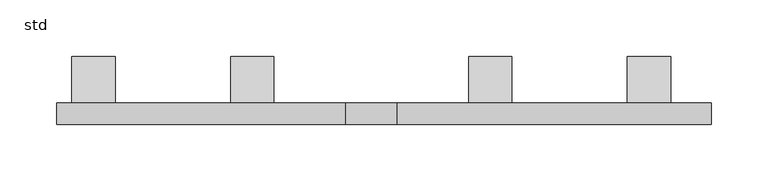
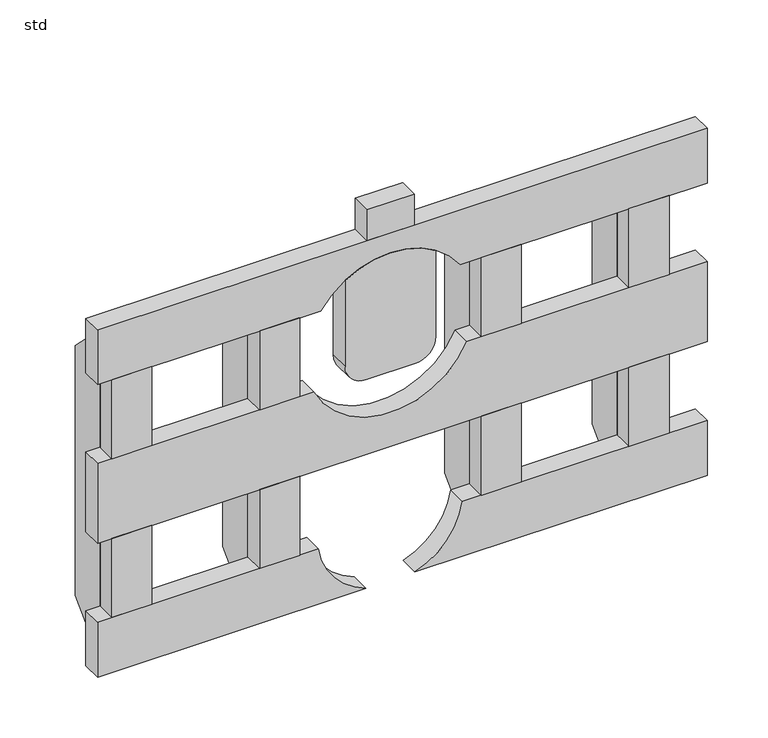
"""IFC4 building model written with IfcOpenShell, lengths in millimetres: unitary equipment geometry, Z_ME_UN_Aquacell_NG_Lateral_Side_Plate_Wavin_(nested) : std."""

from ifc_helpers import new_model, si_unit, point, frame, frame_2d, origin, place, context, project, spatial, polyline, circle_curve, trimmed, segment, composite_curve, outline, extrude, source, transform, mapped, element, save
from ifc_brep_helpers import plane_surface, revolved_surface, advanced_brep


def std_b7651e4d(model_context):
    return source(origin(), model_context, "Body", "SolidModel", [
        extrude(outline(composite_curve([segment(trimmed(circle_curve(frame_2d((264.0, 277.0)), 20.0), [point((264.0, 257.0))], [point((244.0, 277.0))], False, "CARTESIAN"), True, "CONTINUOUS"), segment(polyline([(244.0, 277.0), (244.0, 323.0)]), True, "CONTINUOUS"), segment(trimmed(circle_curve(frame_2d((264.0, 323.0)), 20.0), [point((244.0, 323.0))], [point((264.0, 343.0))], False, "CARTESIAN"), True, "CONTINUOUS"), segment(polyline([(264.0, 343.0), (350.4610999, 343.0)]), True, "CONTINUOUS"), segment(trimmed(circle_curve(frame_2d((283.0, 300.0)), 80.0), [point((350.4610999, 343.0))], [point((350.4610999, 257.0))], False, "CARTESIAN"), True, "CONTINUOUS"), segment(polyline([(350.4610999, 257.0), (264.0, 257.0)]), True, "CONTINUOUS")], self_intersect=False)), frame((0.0, 0.0, 0.0), z_axis=(0.0, 1.0, 0.0), x_axis=(0.0, 0.0, 1.0)), (0.0, 0.0, 1.0), 19.0),
        extrude(outline(polyline([(214.0, 0.0), (176.0, 0.0), (176.0, 19.0), (214.0, 19.0), (214.0, 0.0)])), frame((0.0, 0.0, 90.0), z_axis=(0.0, 0.0, 1.0), x_axis=(1.0, 0.0, 0.0)), (0.0, 0.0, 1.0), 79.0),
        extrude(outline(polyline([(214.0, 0.0), (176.0, 0.0), (176.0, 19.0), (214.0, 19.0), (214.0, 0.0)])), frame((0.0, 0.0, 249.0), z_axis=(0.0, 0.0, 1.0), x_axis=(1.0, 0.0, 0.0)), (0.0, 0.0, 1.0), 79.0),
        extrude(outline(polyline([(424.0, 0.0), (386.0, 0.0), (386.0, 19.0), (424.0, 19.0), (424.0, 0.0)])), frame((0.0, 0.0, 90.0), z_axis=(0.0, 0.0, 1.0), x_axis=(1.0, 0.0, 0.0)), (0.0, 0.0, 1.0), 79.0),
        extrude(outline(polyline([(424.0, 0.0), (386.0, 0.0), (386.0, 19.0), (424.0, 19.0), (424.0, 0.0)])), frame((0.0, 0.0, 249.0), z_axis=(0.0, 0.0, 1.0), x_axis=(1.0, 0.0, 0.0)), (0.0, 0.0, 1.0), 79.0),
        extrude(outline(polyline([(19.0, 35.0), (19.0, 367.0), (60.0, 326.0), (60.0, 76.0), (19.0, 35.0)])), frame((526.0, 0.0, 0.0), z_axis=(1.0, 0.0, 0.0), x_axis=(0.0, 1.0, 0.0)), (0.0, 0.0, 1.0), 38.0),
        extrude(outline(polyline([(19.0, 35.0), (19.0, 367.0), (60.0, 326.0), (60.0, 76.0), (19.0, 35.0)])), frame((386.0, 0.0, 0.0), z_axis=(1.0, 0.0, 0.0), x_axis=(0.0, 1.0, 0.0)), (0.0, 0.0, 1.0), 38.0),
        extrude(outline(polyline([(19.0, 35.0), (19.0, 367.0), (60.0, 326.0), (60.0, 76.0), (19.0, 35.0)])), frame((176.0, 0.0, 0.0), z_axis=(1.0, 0.0, 0.0), x_axis=(0.0, 1.0, 0.0)), (0.0, 0.0, 1.0), 38.0),
        extrude(outline(polyline([(19.0, 35.0), (19.0, 367.0), (60.0, 326.0), (60.0, 76.0), (19.0, 35.0)])), frame((36.0, 0.0, 0.0), z_axis=(1.0, 0.0, 0.0), x_axis=(0.0, 1.0, 0.0)), (0.0, 0.0, 1.0), 38.0),
        extrude(outline(polyline([(564.0, 0.0), (526.0, 0.0), (526.0, 19.0), (564.0, 19.0), (564.0, 0.0)])), frame((0.0, 0.0, 90.0), z_axis=(0.0, 0.0, 1.0), x_axis=(1.0, 0.0, 0.0)), (0.0, 0.0, 1.0), 79.0),
        extrude(outline(polyline([(564.0, 0.0), (526.0, 0.0), (526.0, 19.0), (564.0, 19.0), (564.0, 0.0)])), frame((0.0, 0.0, 249.0), z_axis=(0.0, 0.0, 1.0), x_axis=(1.0, 0.0, 0.0)), (0.0, 0.0, 1.0), 79.0),
        extrude(outline(polyline([(74.0, 0.0), (36.0, 0.0), (36.0, 19.0), (74.0, 19.0), (74.0, 0.0)])), frame((0.0, 0.0, 90.0), z_axis=(0.0, 0.0, 1.0), x_axis=(1.0, 0.0, 0.0)), (0.0, 0.0, 1.0), 79.0),
        extrude(outline(polyline([(74.0, 0.0), (36.0, 0.0), (36.0, 19.0), (74.0, 19.0), (74.0, 0.0)])), frame((0.0, 0.0, 249.0), z_axis=(0.0, 0.0, 1.0), x_axis=(1.0, 0.0, 0.0)), (0.0, 0.0, 1.0), 79.0),
        extrude(outline(polyline([(322.5, 19.0), (322.5, 0.0), (277.5, 0.0), (277.5, 19.0), (322.5, 19.0)])), frame((0.0, 0.0, 383.0), z_axis=(0.0, 0.0, 1.0), x_axis=(1.0, 0.0, 0.0)), (0.0, 0.0, 1.0), 31.0),
        advanced_brep(
        [(600.0, 19.0, 383.0), (600.0, 19.0, 328.0), (366.1437828, 19.0, 328.0), (233.8562172, 19.0, 328.0), (22.5, 19.0, 328.0), (22.5, 19.0, 383.0), (600.0, 0.0, 383.0), (22.5, 0.0, 383.0), (22.5, 0.0, 328.0), (233.8562172, 0.0, 328.0), (366.1437828, 0.0, 328.0), (600.0, 0.0, 328.0)],
        [
            (0, 1),
            (1, 2),
            (2, 3, circle_curve(frame((300.0, 19.0, 283.0), z_axis=(0.0, -1.0, 0.0), x_axis=(1.0, 0.0, 0.0)), 80.0)),
            (3, 4),
            (4, 5),
            (5, 0),
            (6, 7),
            (7, 8),
            (8, 9),
            (9, 10, circle_curve(frame((300.0, 0.0, 283.0), z_axis=(0.0, 1.0, 0.0), x_axis=(1.0, 0.0, 0.0)), 80.0)),
            (10, 11),
            (11, 6),
            (5, 7),
            (6, 0),
            (8, 4),
            (3, 9),
            (1, 11),
            (10, 2),
        ],
        [
            plane_surface(frame((22.5, 19.0, 90.0), z_axis=(0.0, 1.0, 0.0), x_axis=(1.0, 0.0, 0.0))),
            plane_surface(frame((22.5, 0.0, 90.0), z_axis=(0.0, -1.0, 0.0), x_axis=(-1.0, 0.0, 0.0))),
            plane_surface(frame((600.0, 0.0, 383.0), z_axis=(0.0, 0.0, 1.0), x_axis=(0.0, 1.0, 0.0))),
            plane_surface(frame((22.5, 0.0, 328.0), z_axis=(0.0, 0.0, -1.0), x_axis=(0.0, 1.0, 0.0))),
            plane_surface(frame((22.5, 0.0, 383.0), z_axis=(-1.0, 0.0, 0.0), x_axis=(0.0, 1.0, 0.0))),
            plane_surface(frame((600.0, 0.0, 328.0), z_axis=(1.0, 0.0, 0.0), x_axis=(0.0, 1.0, 0.0))),
            revolved_surface(polyline([(380.0, 0.0, 283.0), (380.0, 19.0, 283.0)]), (300.0, 19.0, 283.0), (0.0, -1.0, 0.0)),
        ],
        [
            (0, [[1, 2, 3, 4, 5, 6]]),
            (1, [[7, 8, 9, 10, 11, 12]]),
            (2, [[-6, 13, -7, 14]]),
            (3, [[15, -4, 16, -9]]),
            (3, [[17, -11, 18, -2]]),
            (4, [[-5, -15, -8, -13]]),
            (5, [[-1, -14, -12, -17]]),
            (6, [[-3, -18, -10, -16]]),
        ],
    ),
        advanced_brep(
        [(600.0, 19.0, 90.0), (600.0, 19.0, 35.0), (323.1516738, 19.0, 35.0), (368.2715168, 19.0, 90.0), (600.0, 0.0, 35.0), (600.0, 0.0, 90.0), (368.2715168, 0.0, 90.0), (323.1516738, 0.0, 35.0)],
        [
            (0, 1),
            (1, 2),
            (2, 3, circle_curve(frame((300.0, 19.0, 100.0), z_axis=(0.0, -1.0, 0.0), x_axis=(1.0, 0.0, 0.0)), 69.0)),
            (3, 0),
            (4, 5),
            (5, 6),
            (6, 7, circle_curve(frame((300.0, 0.0, 100.0), z_axis=(0.0, 1.0, 0.0), x_axis=(1.0, 0.0, 0.0)), 69.0)),
            (7, 4),
            (5, 0),
            (3, 6),
            (1, 4),
            (7, 2),
        ],
        [
            plane_surface(frame((22.5, 19.0, 90.0), z_axis=(0.0, 1.0, 0.0), x_axis=(1.0, 0.0, 0.0))),
            plane_surface(frame((22.5, 0.0, 90.0), z_axis=(0.0, -1.0, 0.0), x_axis=(-1.0, 0.0, 0.0))),
            plane_surface(frame((600.0, 0.0, 90.0), z_axis=(0.0, 0.0, 1.0), x_axis=(0.0, 1.0, 0.0))),
            plane_surface(frame((22.5, 0.0, 35.0), z_axis=(0.0, 0.0, -1.0), x_axis=(0.0, 1.0, 0.0))),
            plane_surface(frame((600.0, 0.0, 35.0), z_axis=(1.0, 0.0, 0.0), x_axis=(0.0, 1.0, 0.0))),
            revolved_surface(polyline([(369.0, 0.0, 100.0), (369.0, 19.0, 100.0)]), (300.0, 19.0, 100.0), (0.0, -1.0, 0.0)),
        ],
        [
            (0, [[1, 2, 3, 4]]),
            (1, [[5, 6, 7, 8]]),
            (2, [[9, -4, 10, -6]]),
            (3, [[11, -8, 12, -2]]),
            (4, [[-1, -9, -5, -11]]),
            (5, [[-3, -12, -7, -10]]),
        ],
    ),
        advanced_brep(
        [(22.5, 19.0, 35.0), (22.5, 19.0, 90.0), (231.7284832, 19.0, 90.0), (276.8483262, 19.0, 35.0), (22.5, 0.0, 90.0), (22.5, 0.0, 35.0), (276.8483262, 0.0, 35.0), (231.7284832, 0.0, 90.0)],
        [
            (0, 1),
            (1, 2),
            (2, 3, circle_curve(frame((300.0, 19.0, 100.0), z_axis=(0.0, -1.0, 0.0), x_axis=(1.0, 0.0, 0.0)), 69.0)),
            (3, 0),
            (4, 5),
            (5, 6),
            (6, 7, circle_curve(frame((300.0, 0.0, 100.0), z_axis=(0.0, 1.0, 0.0), x_axis=(1.0, 0.0, 0.0)), 69.0)),
            (7, 4),
            (1, 4),
            (7, 2),
            (5, 0),
            (3, 6),
        ],
        [
            plane_surface(frame((22.5, 19.0, 90.0), z_axis=(0.0, 1.0, 0.0), x_axis=(1.0, 0.0, 0.0))),
            plane_surface(frame((22.5, 0.0, 90.0), z_axis=(0.0, -1.0, 0.0), x_axis=(-1.0, 0.0, 0.0))),
            plane_surface(frame((600.0, 0.0, 90.0), z_axis=(0.0, 0.0, 1.0), x_axis=(0.0, 1.0, 0.0))),
            plane_surface(frame((22.5, 0.0, 35.0), z_axis=(0.0, 0.0, -1.0), x_axis=(0.0, 1.0, 0.0))),
            plane_surface(frame((22.5, 0.0, 90.0), z_axis=(-1.0, 0.0, 0.0), x_axis=(0.0, 1.0, 0.0))),
            revolved_surface(polyline([(369.0, 0.0, 100.0), (369.0, 19.0, 100.0)]), (300.0, 19.0, 100.0), (0.0, -1.0, 0.0)),
        ],
        [
            (0, [[1, 2, 3, 4]]),
            (1, [[5, 6, 7, 8]]),
            (2, [[9, -8, 10, -2]]),
            (3, [[11, -4, 12, -6]]),
            (4, [[-1, -11, -5, -9]]),
            (5, [[-3, -10, -7, -12]]),
        ],
    ),
        advanced_brep(
        [(600.0, 19.0, 249.0), (600.0, 19.0, 169.0), (300.0, 19.0, 169.0), (22.5, 19.0, 169.0), (22.5, 19.0, 249.0), (227.584532, 19.0, 249.0), (372.415468, 19.0, 249.0), (22.5, 0.0, 249.0), (22.5, 0.0, 169.0), (300.0, 0.0, 169.0), (600.0, 0.0, 169.0), (600.0, 0.0, 249.0), (372.415468, 0.0, 249.0), (227.584532, 0.0, 249.0)],
        [
            (0, 1),
            (1, 2),
            (2, 3),
            (3, 4),
            (4, 5),
            (5, 6, circle_curve(frame((300.0, 19.0, 283.0), z_axis=(0.0, -1.0, 0.0), x_axis=(1.0, 0.0, 0.0)), 80.0)),
            (6, 0),
            (7, 8),
            (8, 9),
            (9, 10),
            (10, 11),
            (11, 12),
            (12, 13, circle_curve(frame((300.0, 0.0, 283.0), z_axis=(0.0, 1.0, 0.0), x_axis=(1.0, 0.0, 0.0)), 80.0)),
            (13, 7),
            (11, 0),
            (6, 12),
            (4, 7),
            (13, 5),
            (8, 3),
            (1, 10),
        ],
        [
            plane_surface(frame((22.5, 19.0, 90.0), z_axis=(0.0, 1.0, 0.0), x_axis=(1.0, 0.0, 0.0))),
            plane_surface(frame((22.5, 0.0, 90.0), z_axis=(0.0, -1.0, 0.0), x_axis=(-1.0, 0.0, 0.0))),
            plane_surface(frame((600.0, 0.0, 249.0), z_axis=(0.0, 0.0, 1.0), x_axis=(0.0, 1.0, 0.0))),
            plane_surface(frame((22.5, 0.0, 169.0), z_axis=(0.0, 0.0, -1.0), x_axis=(0.0, 1.0, 0.0))),
            plane_surface(frame((22.5, 0.0, 249.0), z_axis=(-1.0, 0.0, 0.0), x_axis=(0.0, 1.0, 0.0))),
            plane_surface(frame((600.0, 0.0, 169.0), z_axis=(1.0, 0.0, 0.0), x_axis=(0.0, 1.0, 0.0))),
            revolved_surface(polyline([(380.0, 0.0, 283.0), (380.0, 19.0, 283.0)]), (300.0, 19.0, 283.0), (0.0, -1.0, 0.0)),
        ],
        [
            (0, [[1, 2, 3, 4, 5, 6, 7]]),
            (1, [[8, 9, 10, 11, 12, 13, 14]]),
            (2, [[15, -7, 16, -12]]),
            (2, [[17, -14, 18, -5]]),
            (3, [[19, -3, -2, 20, -10, -9]]),
            (4, [[-4, -19, -8, -17]]),
            (5, [[-1, -15, -11, -20]]),
            (6, [[-6, -18, -13, -16]]),
        ],
    ),
    ])


if __name__ == "__main__":
    model = new_model("IFC4")
    model_context = context("Model", 3, world=origin())
    ifc_project = project(units=[si_unit("LENGTHUNIT", "METRE", prefix="MILLI")], contexts=[model_context])
    site = spatial("IfcSite", under=ifc_project)
    building = spatial("IfcBuilding", under=site)
    placement = place(None, origin())
    std_shape = std_b7651e4d(model_context)
    element("IfcUnitaryEquipment", 1, ObjectType="Z_ME_UN_Aquacell_NG_Lateral_Side_Plate_Wavin_(nested) : std", at=placement, inside=building, context=model_context, shape_type="MappedRepresentation", body=[
        mapped(std_shape, transform((0.0, 0.0, 0.0), x_axis=(1.0, 0.0, 0.0), y_axis=(0.0, 1.0, 0.0), z_axis=(0.0, 0.0, 1.0))),
    ])
    save(model, "model.ifc")
